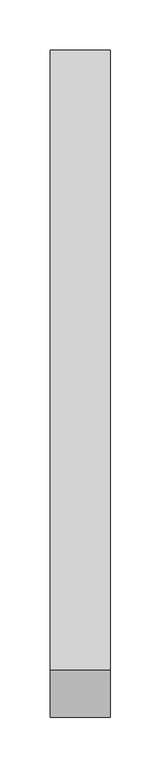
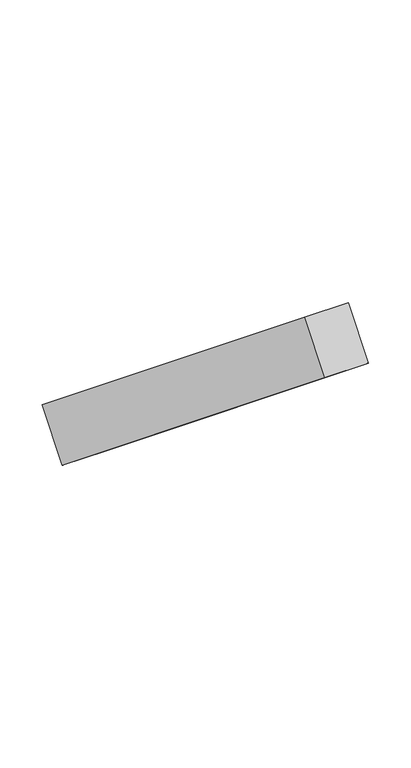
"""IFC4 building model written with IfcOpenShell, lengths in millimetres: proxy geometry, Брус 4 : Брус 3."""

from ifc_helpers import new_model, si_unit, frame, origin, place, context, project, spatial, polyline, outline, extrude, source, transform, mapped, element, save


def generic_models_5b770bf9(model_context):
    return source(origin(), model_context, "Body", "SweptSolid", [
        extrude(outline(polyline([(0.0, -795.0), (0.0, 0.0), (60.0, 0.0), (60.0, -795.0), (0.0, -795.0)])), frame((4665.0, 22068.592727, 504.4153424), z_axis=(0.0, 0.6293203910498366, 0.7771459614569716), x_axis=(-1.0, 0.0, 0.0)), (0.0, 0.0, 1.0), 75.0),
    ])


if __name__ == "__main__":
    model = new_model("IFC4")
    model_context = context("Model", 3, world=origin())
    ifc_project = project(units=[si_unit("LENGTHUNIT", "METRE", prefix="MILLI")], contexts=[model_context])
    site = spatial("IfcSite", under=ifc_project)
    building = spatial("IfcBuilding", under=site)
    placement = place(None, origin())
    generic_models_shape = generic_models_5b770bf9(model_context)
    element("IfcBuildingElementProxy", 1, Name="Брус 4 : Брус 3", ObjectType="Брус 4 : Брус 3", at=placement, inside=building, context=model_context, shape_type="MappedRepresentation", body=[
        mapped(generic_models_shape, transform((0.0, 0.0, 0.0), x_axis=(1.0, 0.0, 0.0), y_axis=(0.0, 1.0, 0.0), z_axis=(0.0, 0.0, 1.0))),
    ])
    save(model, "model.ifc")
